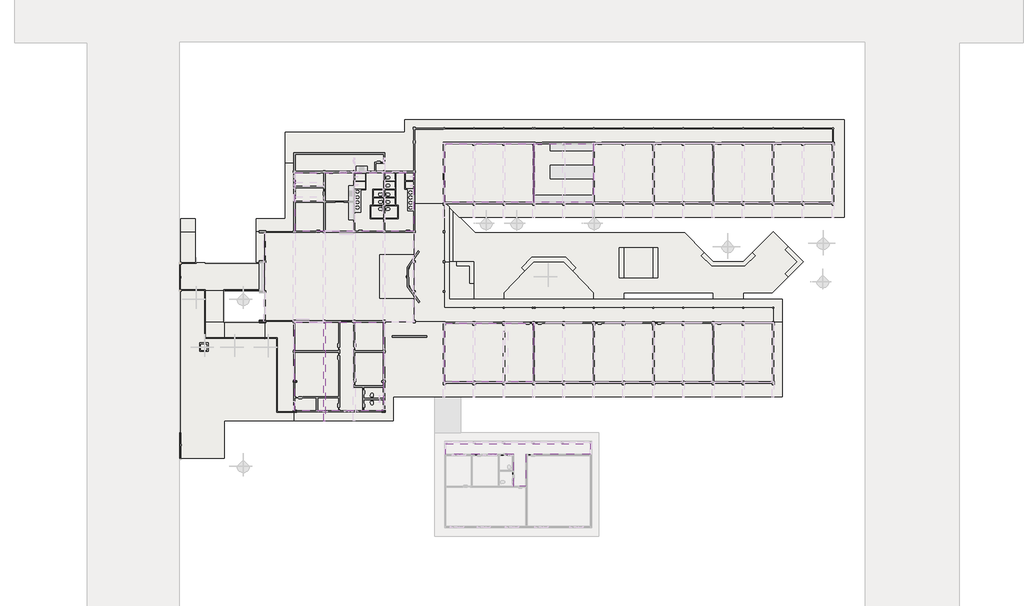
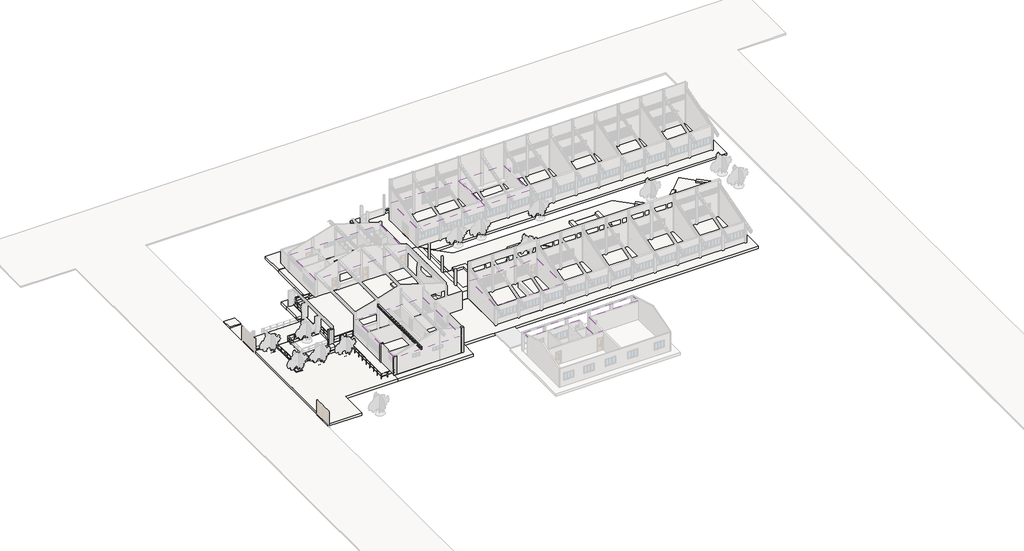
# One storey, part 5 of 12: 56 slabs, 6 coverings, 4 columns, 1 beam.
"""IFC4 building model written with IfcOpenShell, lengths in millimetres."""

from ifc_helpers import new_model, si_unit, point, frame, frame_2d, origin, origin_with_axes, place, context, project, spatial, polyline, circle_curve, trimmed, segment, composite_curve, outline, extrude, faceted_brep, transform, mapped, element, save
from components import beam_20x40_2e5e74c3

model = new_model("IFC4")

# Units and contexts
model_context = context("Model", 3, world=origin())
ifc_project = project(units=[si_unit("LENGTHUNIT", "METRE", prefix="MILLI")], contexts=[model_context])

# Site, building, storey
site = spatial("IfcSite", under=ifc_project)
building = spatial("IfcBuilding", under=site)
storey = spatial("IfcBuildingStorey", under=building, Name="Nível 1", Elevation=0.0)

# Beam
placement = place(None, origin())
beam_20x40_shape = beam_20x40_2e5e74c3(model_context)
element("IfcBeam", 1, ObjectType="Viga Treliçada - Igor Ramos.0001 : 20x40", at=placement, inside=storey, context=model_context, shape_type="MappedRepresentation", body=[
    mapped(beam_20x40_shape, transform((-11198.5268603, 11590.1739256, 4099.0), x_axis=(0.0, 1.0, 0.0), y_axis=(-1.0, 0.0, 0.0), z_axis=(0.0, 0.0, 1.0))),
])

# Columns
element("IfcColumn", 2, ObjectType="Pilar retangular : 40 x 20 cm", at=placement, inside=storey, context=model_context, shape_type="Brep", body=[
    faceted_brep([(-14454.539187, 8927.5037043, 3300.0), (-14643.4946316, 8927.5037043, 3300.0), (-14793.4946316, 8927.5037043, 3300.0), (-14854.539187, 8927.5037043, 3300.0), (-14854.539187, 8727.5037043, 3300.0), (-14793.4946316, 8727.5037043, 3300.0), (-14643.4946316, 8727.5037043, 3300.0), (-14454.539187, 8727.5037043, 3300.0), (-14454.539187, 8927.5037043, 300.0), (-14454.539187, 8727.5037043, 300.0), (-14643.4946316, 8727.5037043, 300.0), (-14793.4946316, 8727.5037043, 300.0), (-14854.539187, 8727.5037043, 300.0), (-14854.539187, 8927.5037043, 300.0), (-14793.4946316, 8927.5037043, 300.0), (-14643.4946316, 8927.5037043, 300.0)], [[[0, 1, 2, 3, 4, 5, 6, 7]], [[8, 9, 10, 11, 12, 13, 14, 15]], [[3, 2, 1, 0, 8, 15, 14, 13]], [[4, 3, 13, 12]], [[7, 6, 5, 4, 12, 11, 10, 9]], [[0, 7, 9, 8]]]),
])
element("IfcColumn", 3, ObjectType="Pilar retangular : 40 x 20 cm", at=placement, inside=storey, context=model_context, shape_type="Brep", body=[
    faceted_brep([(-14440.0642381, 5422.1410552, 3300.0), (-14643.4946316, 5422.1410552, 3300.0), (-14793.4946316, 5422.1410552, 3300.0), (-14840.0642381, 5422.1410552, 3300.0), (-14840.0642381, 5222.1410552, 3300.0), (-14440.0642381, 5222.1410552, 3300.0), (-14440.0642381, 5246.1710904, 3300.0), (-14440.0642381, 5396.1710904, 3300.0), (-14440.0642381, 5422.1410552, 300.0), (-14440.0642381, 5396.1710904, 300.0), (-14440.0642381, 5246.1710904, 300.0), (-14440.0642381, 5222.1410552, 300.0), (-14840.0642381, 5222.1410552, 300.0), (-14840.0642381, 5422.1410552, 300.0), (-14793.4946316, 5422.1410552, 300.0), (-14643.4946316, 5422.1410552, 300.0)], [[[0, 1, 2, 3, 4, 5, 6, 7]], [[8, 9, 10, 11, 12, 13, 14, 15]], [[3, 2, 1, 0, 8, 15, 14, 13]], [[4, 3, 13, 12]], [[5, 4, 12, 11]], [[0, 7, 6, 5, 11, 10, 9, 8]]]),
])
element("IfcColumn", 4, ObjectType="Pilar retangular : 40 x 20 cm", at=placement, inside=storey, context=model_context, shape_type="Brep", body=[
    faceted_brep([(-4082.1826756, 5422.1410552, 4450.0), (-4482.1826756, 5422.1410552, 4450.0), (-4482.1826756, 5222.1410552, 4450.0), (-4082.1826756, 5222.1410552, 4450.0), (-4082.1826756, 5422.1410552, 300.0), (-4082.1826756, 5222.1410552, 300.0), (-4482.1826756, 5222.1410552, 300.0), (-4482.1826756, 5246.1710904, 300.0), (-4482.1826756, 5396.1710904, 300.0), (-4482.1826756, 5422.1410552, 300.0), (-4288.3111843, 5422.1410552, 300.0), (-4138.3111843, 5422.1410552, 300.0)], [[[0, 1, 2, 3]], [[4, 5, 6, 7, 8, 9, 10, 11]], [[1, 0, 4, 11, 10, 9]], [[2, 1, 9, 8, 7, 6]], [[3, 2, 6, 5]], [[0, 3, 5, 4]]]),
])
element("IfcColumn", 5, ObjectType="Pilar retangular : 80 x 25 cm", at=placement, inside=storey, context=model_context, shape_type="Brep", body=[
    faceted_brep([(-18048.5268603, 15956.1797638, 2650.0), (-18848.5268603, 15956.1797638, 2650.0), (-18848.5268603, 15706.1797638, 2650.0), (-18048.5268603, 15706.1797638, 2650.0), (-18848.5268603, 15706.1797638, -100.0), (-18848.5268603, 15956.1797638, -100.0), (-18048.5268603, 15956.1797638, -100.0), (-18048.5268603, 15831.1862478, -100.0), (-18198.5268603, 15831.1862478, -100.0), (-18198.5268603, 15706.1797638, -100.0), (-18048.5268603, 15956.1797638, 300.0), (-18198.4714475, 15956.1797638, 300.0), (-18198.4714475, 15956.1797638, 0.0), (-18048.5268603, 15956.1797638, 0.0), (-18848.5268603, 15706.1797638, 179.2044041), (-18848.5268603, 15831.1862478, 179.2044041), (-18848.5268603, 15831.1862478, 279.2553191), (-18848.5268603, 15706.1797638, 279.2553191), (-18198.5268603, 15706.1797638, 300.0), (-18048.5268603, 15706.1797638, 300.0), (-18198.5268603, 15831.1862478, 300.0), (-18198.5268603, 15831.1862478, 199.9490849), (-18198.5268603, 15706.1797638, 199.9490849), (-18198.5268603, 15831.1862478, 0.0), (-18048.5268603, 15831.1862478, 0.0)], [[[0, 1, 2, 3]], [[4, 5, 6, 7, 8, 9]], [[1, 0, 10, 11, 12, 13, 6, 5]], [[2, 1, 5, 4, 14, 15, 16, 17]], [[3, 2, 17, 18, 19]], [[0, 3, 19, 10]], [[19, 18, 20, 11, 10]], [[21, 22, 9, 8, 23, 12, 11, 20]], [[8, 7, 24, 23]], [[21, 15, 14, 22]], [[16, 20, 18, 17]], [[14, 4, 9, 22]], [[12, 23, 24, 13]], [[7, 6, 13, 24]], [[15, 21, 20, 16]]]),
])

# Coverings
element("IfcCovering", 6, ObjectType="laje salas", at=placement, inside=storey, context=model_context, shape_type="SweptSolid", body=[
    extrude(outline(polyline([(-14643.4946316, 5396.1710904), (-14643.4946316, 15746.0481484), (-4288.3111843, 15746.0481484), (-4288.3111843, 5396.1710904), (-14643.4946316, 5396.1710904)])), frame((0.0, 0.0, 2960.0), z_axis=(0.0, 0.0, 1.0), x_axis=(1.0, 0.0, 0.0)), (0.0, 0.0, 1.0), 15.0),
])
element("IfcCovering", 7, ObjectType="laje salas", at=placement, inside=storey, context=model_context, shape_type="SweptSolid", body=[
    extrude(outline(polyline([(-773.4714475, 33256.1862478), (-773.4714475, 26406.1862478), (-14623.4714475, 26406.1862478), (-14623.4714475, 33256.1862478), (-773.4714475, 33256.1862478)])), frame((0.0, 0.0, 2960.0), z_axis=(0.0, 0.0, 1.0), x_axis=(1.0, 0.0, 0.0)), (0.0, 0.0, 1.0), 15.0),
])
element("IfcCovering", 8, ObjectType="Forro em pvc", at=placement, inside=storey, context=model_context, shape_type="SweptSolid", body=[
    extrude(outline(polyline([(2876.528714, 15622.0058221), (13226.528714, 15622.0058221), (13226.528714, 8781.1862478), (2876.528714, 8781.1862478), (2876.528714, 15622.0058221)])), frame((0.0, 0.0, 3250.0), z_axis=(0.0, 0.0, 1.0), x_axis=(1.0, 0.0, 0.0)), (0.0, 0.0, 1.0), 20.0),
])
element("IfcCovering", 9, ObjectType="Forro em pvc", at=placement, inside=storey, context=model_context, shape_type="SweptSolid", body=[
    extrude(outline(polyline([(13376.5285525, 36626.0629917), (20226.5285525, 36626.0629917), (20226.5285525, 29781.1862478), (13376.5285525, 29781.1862478), (13376.5285525, 36626.0629917)])), frame((0.0, 0.0, 3250.0), z_axis=(0.0, 0.0, 1.0), x_axis=(1.0, 0.0, 0.0)), (0.0, 0.0, 1.0), 20.0),
])
element("IfcCovering", 10, ObjectType="Forro em pvc", at=placement, inside=storey, context=model_context, shape_type="SweptSolid", body=[
    extrude(outline(polyline([(13226.5285525, 36626.0629917), (13226.5285525, 29781.1862478), (2876.5285525, 29781.1862478), (2876.5285525, 36626.0629917), (13226.5285525, 36626.0629917)])), frame((0.0, 0.0, 3250.0), z_axis=(0.0, 0.0, 1.0), x_axis=(1.0, 0.0, 0.0)), (0.0, 0.0, 1.0), 20.0),
])
element("IfcCovering", 11, ObjectType="Forro em pvc", at=placement, inside=storey, context=model_context, shape_type="SweptSolid", body=[
    extrude(outline(polyline([(3026.5285525, 1525.3088684), (19926.5285525, 1525.3088684), (19926.5285525, 301.3249037), (12376.5285525, 301.3249037), (12376.5285525, -3418.8137522), (10926.5285525, -3418.8137522), (10926.5285525, 301.3249037), (3026.5285525, 301.3249037), (3026.5285525, 1525.3088684)])), frame((0.0, 0.0, 3250.0), z_axis=(0.0, 0.0, 1.0), x_axis=(1.0, 0.0, 0.0)), (0.0, 0.0, 1.0), 20.0),
])

# Slabs
element("IfcSlab", 12, ObjectType="Granilite", at=placement, inside=storey, context=model_context, shape_type="Brep", body=[
    faceted_brep([(-14773.4714475, 26331.1862478, 0.0), (-14773.4714475, 26256.1862478, 0.0), (-773.4714655, 26256.1862478, 0.0), (-773.4714655, 15831.1862478, 0.0), (-4138.3111843, 15831.1862478, 0.0), (-4138.3111843, 15896.0481484, 0.0), (-14793.4946316, 15896.0481484, 0.0), (-14793.4946316, 15831.1862478, 0.0), (-18048.5268603, 15831.1862478, 0.0), (-18198.4714475, 15831.1862478, 0.0), (-18198.4714475, 15956.1797638, 0.0), (-18198.4714475, 19206.1797638, 0.0), (-18198.4714475, 19456.1797638, 0.0), (-18198.4714475, 22706.1862478, 0.0), (-18198.4714475, 22956.1862478, 0.0), (-18198.4714475, 26206.1797638, 0.0), (-18198.4714475, 26331.1862478, 0.0), (-18048.5268603, 26331.1862478, 0.0), (-14773.4714475, 26331.1862478, 300.0), (-18048.5268603, 26331.1862478, 300.0), (-18198.4714475, 26331.1862478, 300.0), (-18198.4714475, 26206.1797638, 300.0), (-18198.4714475, 22956.1862478, 300.0), (-18198.4714475, 22706.1862478, 300.0), (-18198.4714475, 19456.1797638, 300.0), (-18198.4714475, 19206.1797638, 300.0), (-18198.4714475, 15956.1797638, 300.0), (-18198.4714475, 15831.1862478, 300.0), (-14793.4946316, 15831.1862478, 300.0), (-14793.4946316, 15896.0481484, 300.0), (-4138.3111843, 15896.0481484, 300.0), (-4138.3111843, 15831.1862478, 300.0), (-773.4714655, 15831.1862478, 300.0), (-773.4714655, 26256.1862478, 300.0), (-823.4714475, 26256.1862478, 300.0), (-873.4714475, 26256.1862478, 300.0), (-1733.4714475, 26256.1862478, 300.0), (-4073.4714475, 26256.1862478, 300.0), (-4323.4714475, 26256.1862478, 300.0), (-6663.4714475, 26256.1862478, 300.0), (-7523.4714475, 26256.1862478, 300.0), (-7573.4714475, 26256.1862478, 300.0), (-7823.5268603, 26256.1862478, 300.0), (-14773.4714475, 26256.1862478, 300.0), (-18198.4714475, 15831.1862478, 199.9490849), (-18198.4714475, 26331.1862478, 200.0)], [[[0, 1, 2, 3, 4, 5, 6, 7, 8, 9, 10, 11, 12, 13, 14, 15, 16, 17]], [[18, 19, 20, 21, 22, 23, 24, 25, 26, 27, 28, 29, 30, 31, 32, 33, 34, 35, 36, 37, 38, 39, 40, 41, 42, 43]], [[1, 0, 18, 43]], [[2, 1, 43, 42, 41, 40, 39, 38, 37, 36, 35, 34, 33]], [[3, 2, 33, 32]], [[4, 3, 32, 31]], [[5, 4, 31, 30]], [[6, 5, 30, 29]], [[7, 6, 29, 28]], [[9, 8, 7, 28, 27, 44]], [[16, 15, 14, 13, 12, 11, 10, 9, 44, 27, 26, 25, 24, 23, 22, 21, 20, 45]], [[0, 17, 16, 45, 20, 19, 18]]]),
])
element("IfcSlab", 13, ObjectType="Piso cerâmico 30 x 30cm - branco", at=placement, inside=storey, context=model_context, shape_type="SweptSolid", body=[
    extrude(outline(polyline([(-773.4714475, 33256.1862478), (-773.4714475, 26406.1862478), (-4123.4714475, 26406.1862478), (-4123.4714475, 33256.1862478), (-773.4714475, 33256.1862478)])), frame((0.0, 0.0, 245.0), z_axis=(0.0, 0.0, 1.0), x_axis=(1.0, 0.0, 0.0)), (0.0, 0.0, 1.0), 55.0),
])
element("IfcSlab", 14, ObjectType="Piso cerâmico 30 x 30cm - branco", at=placement, inside=storey, context=model_context, shape_type="SweptSolid", body=[
    extrude(outline(polyline([(-4273.4714475, 33256.1862478), (-4273.4714475, 26406.1862478), (-7623.4714475, 26406.1862478), (-7623.4714475, 33256.1862478), (-4273.4714475, 33256.1862478)])), frame((0.0, 0.0, 245.0), z_axis=(0.0, 0.0, 1.0), x_axis=(1.0, 0.0, 0.0)), (0.0, 0.0, 1.0), 55.0),
])
element("IfcSlab", 15, ObjectType="Piso cerâmico 30 x 30cm - branco", at=placement, inside=storey, context=model_context, shape_type="SweptSolid", body=[
    extrude(outline(polyline([(-11123.4712416, 33256.1862478), (-7773.4714475, 33256.1862478), (-7773.4714475, 29906.1862478), (-11123.4712416, 29906.1862478), (-11123.4712416, 33256.1862478)])), frame((0.0, 0.0, 245.0), z_axis=(0.0, 0.0, 1.0), x_axis=(1.0, 0.0, 0.0)), (0.0, 0.0, 1.0), 55.0),
])
element("IfcSlab", 16, ObjectType="Piso cerâmico 30 x 30cm - branco", at=placement, inside=storey, context=model_context, shape_type="SweptSolid", body=[
    extrude(outline(polyline([(-7773.4714475, 29756.1862478), (-7773.4714475, 26406.1862478), (-11123.4712416, 26406.1862478), (-11123.4712416, 29756.1862478), (-7773.4714475, 29756.1862478)])), frame((0.0, 0.0, 245.0), z_axis=(0.0, 0.0, 1.0), x_axis=(1.0, 0.0, 0.0)), (0.0, 0.0, 1.0), 55.0),
])
element("IfcSlab", 17, ObjectType="Granilite", at=placement, inside=storey, context=model_context, shape_type="SweptSolid", body=[
    extrude(outline(polyline([(-14623.4714475, 26406.1862478), (-14623.4714475, 29756.1862478), (-11273.4712416, 29756.1862478), (-11273.4712416, 26406.1862478), (-14623.4714475, 26406.1862478)])), origin_with_axes(), (0.0, 0.0, 1.0), 300.0),
])
element("IfcSlab", 18, ObjectType="Granilite", at=placement, inside=storey, context=model_context, shape_type="SweptSolid", body=[
    extrude(outline(polyline([(-11273.4712416, 31481.1862478), (-11273.4712416, 29906.1862478), (-14623.4714475, 29906.1862478), (-14623.4714475, 31481.1862478), (-11273.4712416, 31481.1862478)])), origin_with_axes(), (0.0, 0.0, 1.0), 300.0),
])
element("IfcSlab", 19, ObjectType="Granilite", at=placement, inside=storey, context=model_context, shape_type="SweptSolid", body=[
    extrude(outline(polyline([(-11273.4712416, 33256.1862478), (-11273.4712416, 31631.1862478), (-14623.4714475, 31631.1862478), (-14623.4714475, 33256.1862478), (-11273.4712416, 33256.1862478)])), origin_with_axes(), (0.0, 0.0, 1.0), 300.0),
])
element("IfcSlab", 20, ObjectType="Granilite", at=placement, inside=storey, context=model_context, shape_type="SweptSolid", body=[
    extrude(outline(polyline([(-14793.4946316, 5246.1710904), (-14793.4946316, 15896.0481484), (-4138.3111843, 15896.0481484), (-4138.3111843, 8296.1710904), (-6738.3111843, 8296.1710904), (-6738.3111843, 5246.1710904), (-14793.4946316, 5246.1710904)])), origin_with_axes(), (0.0, 0.0, 1.0), 300.0),
])
element("IfcSlab", 21, ObjectType="Granilite", at=placement, inside=storey, context=model_context, shape_type="SweptSolid", body=[
    extrude(outline(polyline([(-6588.3111843, 8146.1710904), (-4288.3111843, 8146.1710904), (-4288.3111843, 6846.1710904), (-6588.3111843, 6846.1710904), (-6588.3111843, 8146.1710904)])), frame((0.0, 0.0, -10.0), z_axis=(0.0, 0.0, 1.0), x_axis=(1.0, 0.0, 0.0)), (0.0, 0.0, 1.0), 300.0),
])
element("IfcSlab", 22, ObjectType="Granilite", at=placement, inside=storey, context=model_context, shape_type="SweptSolid", body=[
    extrude(outline(polyline([(2726.5285525, 8631.1862478), (2726.5285525, 15772.0058221), (13226.528714, 15772.0058221), (13226.528714, 8631.1862478), (2726.5285525, 8631.1862478)])), origin_with_axes(), (0.0, 0.0, 1.0), 300.0),
])
element("IfcSlab", 23, ObjectType="Granilite", at=placement, inside=storey, context=model_context, shape_type="SweptSolid", body=[
    extrude(outline(polyline([(13226.528714, 8631.1862478), (13226.528714, 15772.0058221), (41376.5302368, 15772.0058221), (41376.5302368, 8631.1862478), (13226.528714, 8631.1862478)])), origin_with_axes(), (0.0, 0.0, 1.0), 300.0),
])
element("IfcSlab", 24, ObjectType="Palco 30cm", at=placement, inside=storey, context=model_context, shape_type="SweptSolid", body=[
    extrude(outline(composite_curve([segment(polyline([(-4698.4714475, 23631.1862478), (-698.4714475, 23631.1862478)]), True, "CONTINUOUS"), segment(trimmed(circle_curve(frame_2d((2149.9431525, 21081.1862478)), 3823.0832758), [point((-698.4714475, 23631.1862478))], [point((-698.4714475, 18531.1862478))], True, "CARTESIAN"), True, "CONTINUOUS"), segment(polyline([(-698.4714475, 18531.1862478), (-4698.4714475, 18531.1862478), (-4698.4714475, 23631.1862478)]), True, "CONTINUOUS")], self_intersect=False)), frame((0.0, 0.0, 300.0), z_axis=(0.0, 0.0, 1.0), x_axis=(1.0, 0.0, 0.0)), (0.0, 0.0, 1.0), 300.0),
])
element("IfcSlab", 25, ObjectType="Piso cerâmico 30 x 30cm - branco", at=placement, inside=storey, context=model_context, shape_type="SweptSolid", body=[
    extrude(outline(polyline([(-9952.6789714, 29906.1862478), (-8948.7737339, 29906.1862478), (-8948.7737339, 29756.1862478), (-9952.6789714, 29756.1862478), (-9952.6789714, 29906.1862478)])), frame((0.0, 0.0, 245.0), z_axis=(0.0, 0.0, 1.0), x_axis=(1.0, 0.0, 0.0)), (0.0, 0.0, 1.0), 55.0),
])
element("IfcSlab", 26, ObjectType="Granilite", at=placement, inside=storey, context=model_context, shape_type="Brep", body=[
    faceted_brep([(2801.5285525, 29631.1862478, 0.0), (2801.5285525, 17442.0058221, 0.0), (41301.5285525, 17442.0058221, 0.0), (41301.5285525, 15772.0058221, 0.0), (2801.4731397, 15772.0058221, 0.0), (2801.4731397, 15831.1862478, 0.0), (-773.4714655, 15831.1862478, 0.0), (-773.4714655, 26256.1862478, 0.0), (-623.4714475, 26256.1862478, 0.0), (-623.4714475, 29631.1862478, 0.0), (2726.5285525, 29631.1862478, 0.0), (2801.5285525, 29631.1862478, 300.0), (2726.5285525, 29631.1862478, 300.0), (-623.4714475, 29631.1862478, 300.0), (-623.4714475, 26256.1862478, 300.0), (-773.4714655, 26256.1862478, 300.0), (-773.4714655, 15831.1862478, 300.0), (2801.4731397, 15831.1862478, 300.0), (2801.4731397, 15772.0058221, 300.0), (41301.5285525, 15772.0058221, 300.0), (41301.5285525, 17442.0058221, 300.0), (2801.5285525, 17442.0058221, 300.0)], [[[0, 1, 2, 3, 4, 5, 6, 7, 8, 9, 10]], [[11, 12, 13, 14, 15, 16, 17, 18, 19, 20, 21]], [[1, 0, 11, 21]], [[9, 8, 14, 13]], [[0, 10, 9, 13, 12, 11]], [[2, 1, 21, 20]], [[3, 2, 20, 19]], [[4, 3, 19, 18]], [[5, 4, 18, 17]], [[6, 5, 17, 16]], [[7, 6, 16, 15]], [[8, 7, 15, 14]]]),
])
element("IfcSlab", 27, ObjectType="Granilite", at=placement, inside=storey, context=model_context, shape_type="SweptSolid", body=[
    extrude(outline(polyline([(-4288.3111843, 6696.1710904), (-4288.3111843, 5396.1710904), (-6588.3111843, 5396.1710904), (-6588.3111843, 6696.1710904), (-4288.3111843, 6696.1710904)])), frame((0.0, 0.0, -10.0), z_axis=(0.0, 0.0, 1.0), x_axis=(1.0, 0.0, 0.0)), (0.0, 0.0, 1.0), 300.0),
])
element("IfcSlab", 28, ObjectType="Granilite", at=placement, inside=storey, context=model_context, shape_type="SweptSolid", body=[
    extrude(outline(polyline([(2726.5285525, 29631.1862478), (-623.4714475, 29631.1862478), (-623.4714475, 36776.1862478), (-623.4714475, 38431.1862478), (48301.5285525, 38431.1862478), (48301.5285525, 36776.0629917), (2726.5285525, 36776.0629917), (2726.5285525, 29631.1862478)])), origin_with_axes(), (0.0, 0.0, 1.0), 300.0),
])
element("IfcSlab", 29, ObjectType="Granilite", at=placement, inside=storey, context=model_context, shape_type="SweptSolid", body=[
    extrude(outline(polyline([(20226.5285525, 36626.0629917), (20226.5285525, 29781.1862478), (2876.5285525, 29781.1862478), (2876.5285525, 36626.0629917), (20226.5285525, 36626.0629917)])), origin_with_axes(), (0.0, 0.0, 1.0), 300.0),
])
element("IfcSlab", 30, ObjectType="2-cm - Banco Concreto canteiro", at=placement, inside=storey, context=model_context, shape_type="SweptSolid", body=[
    extrude(outline(polyline([(-18293.5500443, 13331.1797638), (-17293.5500443, 13331.1797638), (-17293.5500443, 12331.1797638), (-18293.5500443, 12331.1797638), (-18293.5500443, 13331.1797638)]), holes=[polyline([(-18143.5500443, 13181.1797638), (-18143.5500443, 12481.1797638), (-17443.5500443, 12481.1797638), (-17443.5500443, 13181.1797638), (-18143.5500443, 13181.1797638)])]), frame((0.0, 0.0, 100.0), z_axis=(0.0, 0.0, 1.0), x_axis=(1.0, 0.0, 0.0)), (0.0, 0.0, 1.0), 200.0),
])
element("IfcSlab", 31, ObjectType="2-cm - Banco Concreto canteiro", at=placement, inside=storey, context=model_context, shape_type="SweptSolid", body=[
    extrude(outline(polyline([(-22293.5500443, 13331.1797638), (-21293.5500443, 13331.1797638), (-21293.5500443, 12331.1797638), (-22293.5500443, 12331.1797638), (-22293.5500443, 13331.1797638)]), holes=[polyline([(-22143.5500443, 13181.1797638), (-22143.5500443, 12481.1797638), (-21443.5500443, 12481.1797638), (-21443.5500443, 13181.1797638), (-22143.5500443, 13181.1797638)])]), frame((0.0, 0.0, 100.0), z_axis=(0.0, 0.0, 1.0), x_axis=(1.0, 0.0, 0.0)), (0.0, 0.0, 1.0), 200.0),
])
element("IfcSlab", 32, ObjectType="2-cm - Banco Concreto canteiro", at=placement, inside=storey, context=model_context, shape_type="SweptSolid", body=[
    extrude(outline(polyline([(-25793.5500443, 13331.1797638), (-24793.5500443, 13331.1797638), (-24793.5500443, 12331.1797638), (-25793.5500443, 12331.1797638), (-25793.5500443, 13331.1797638)]), holes=[polyline([(-25643.5500443, 13181.1797638), (-25643.5500443, 12481.1797638), (-24943.5500443, 12481.1797638), (-24943.5500443, 13181.1797638), (-25643.5500443, 13181.1797638)])]), frame((0.0, 0.0, 100.0), z_axis=(0.0, 0.0, 1.0), x_axis=(1.0, 0.0, 0.0)), (0.0, 0.0, 1.0), 200.0),
])
element("IfcSlab", 33, ObjectType="2-cm - Banco Concreto canteiro", at=placement, inside=storey, context=model_context, shape_type="SweptSolid", body=[
    extrude(outline(polyline([(-26793.5500443, 18931.1797638), (-25793.5500443, 18931.1797638), (-25793.5500443, 17931.1797638), (-26793.5500443, 17931.1797638), (-26793.5500443, 18931.1797638)]), holes=[polyline([(-26643.5500443, 18781.1797638), (-26643.5500443, 18081.1797638), (-25943.5500443, 18081.1797638), (-25943.5500443, 18781.1797638), (-26643.5500443, 18781.1797638)])]), frame((0.0, 0.0, 100.0), z_axis=(0.0, 0.0, 1.0), x_axis=(1.0, 0.0, 0.0)), (0.0, 0.0, 1.0), 200.0),
])
element("IfcSlab", 34, ObjectType="Granilite", at=placement, inside=storey, context=model_context, shape_type="SweptSolid", body=[
    extrude(outline(polyline([(48226.5285525, 29781.1862478), (20376.5285525, 29781.1862478), (20376.5285525, 36626.0629917), (48226.5285525, 36626.0629917), (48226.5285525, 29781.1862478)])), origin_with_axes(), (0.0, 0.0, 1.0), 300.0),
])
element("IfcSlab", 35, ObjectType="Piso cerâmico 30 x 30cm - branco", at=placement, inside=storey, context=model_context, shape_type="SweptSolid", body=[
    extrude(outline(polyline([(-11273.4712416, 30521.1862478), (-11273.4712416, 31381.1862478), (-11123.4712416, 31381.1862478), (-11123.4712416, 30521.1862478), (-11273.4712416, 30521.1862478)])), frame((0.0, 0.0, 245.0), z_axis=(0.0, 0.0, 1.0), x_axis=(1.0, 0.0, 0.0)), (0.0, 0.0, 1.0), 55.0),
])
element("IfcSlab", 36, ObjectType="Piso cerâmico 30 x 30cm - branco", at=placement, inside=storey, context=model_context, shape_type="SweptSolid", body=[
    extrude(outline(polyline([(-12213.4712416, 26256.1862478), (-12213.4712416, 26406.1862478), (-11373.4712416, 26406.1862478), (-11373.4712416, 26256.1862478), (-12213.4712416, 26256.1862478)])), frame((0.0, 0.0, 245.0), z_axis=(0.0, 0.0, 1.0), x_axis=(1.0, 0.0, 0.0)), (0.0, 0.0, 1.0), 55.0),
])
element("IfcSlab", 37, ObjectType="Granilite", at=placement, inside=storey, context=model_context, shape_type="SweptSolid", body=[
    extrude(outline(polyline([(-6588.3111843, 8106.1710904), (-6588.3111843, 7246.1710904), (-6738.3111843, 7246.1710904), (-6738.3111843, 8106.1710904), (-6588.3111843, 8106.1710904)])), origin_with_axes(), (0.0, 0.0, 1.0), 300.0),
])
element("IfcSlab", 38, ObjectType="Granilite", at=placement, inside=storey, context=model_context, shape_type="SweptSolid", body=[
    extrude(outline(polyline([(-6738.3111843, 5436.1710904), (-6738.3111843, 6296.1710904), (-6588.3111843, 6296.1710904), (-6588.3111843, 5436.1710904), (-6738.3111843, 5436.1710904)])), origin_with_axes(), (0.0, 0.0, 1.0), 300.0),
])
element("IfcSlab", 39, ObjectType="Granilite", at=placement, inside=storey, context=model_context, shape_type="SweptSolid", body=[
    extrude(outline(polyline([(6346.5398414, 151.3249037), (6346.5398414, 301.3249037), (7206.5398414, 301.3249037), (7206.5398414, 151.3249037), (6346.5398414, 151.3249037)])), origin_with_axes(), (0.0, 0.0, 1.0), 300.0),
])
element("IfcSlab", 40, ObjectType="Granilite", at=placement, inside=storey, context=model_context, shape_type="SweptSolid", body=[
    extrude(outline(polyline([(9396.5285525, 151.3249037), (9396.5285525, 301.3249037), (10256.5285525, 301.3249037), (10256.5285525, 151.3249037), (9396.5285525, 151.3249037)])), origin_with_axes(), (0.0, 0.0, 1.0), 300.0),
    extrude(outline(polyline([(10776.5285525, -2623.7444242), (10776.5285525, -1763.7444242), (10926.5285525, -1763.7444242), (10926.5285525, -2623.7444242), (10776.5285525, -2623.7444242)])), origin_with_axes(), (0.0, 0.0, 1.0), 300.0),
    extrude(outline(polyline([(12626.5285525, 151.3249037), (12626.5285525, 301.3249037), (13486.5285525, 301.3249037), (13486.5285525, 151.3249037), (12626.5285525, 151.3249037)])), origin_with_axes(), (0.0, 0.0, 1.0), 300.0),
])
element("IfcSlab", 41, ObjectType="Granilite", at=placement, inside=storey, context=model_context, shape_type="SweptSolid", body=[
    extrude(outline(polyline([(2876.5285525, 33231.1862478), (2876.5285525, 31731.1862478), (2726.5285525, 31731.1862478), (2726.5285525, 33231.1862478), (2876.5285525, 33231.1862478)])), origin_with_axes(), (0.0, 0.0, 1.0), 300.0),
])
element("IfcSlab", 42, ObjectType="Granilite", at=placement, inside=storey, context=model_context, shape_type="SweptSolid", body=[
    extrude(outline(polyline([(21306.5285525, 36626.0629917), (20446.5285525, 36626.0629917), (20446.5285525, 36776.0629917), (21306.5285525, 36776.0629917), (21306.5285525, 36626.0629917)])), origin_with_axes(), (0.0, 0.0, 1.0), 300.0),
    extrude(outline(polyline([(28306.5289673, 36626.0629917), (27446.5289673, 36626.0629917), (27446.5289673, 36776.0629917), (28306.5289673, 36776.0629917), (28306.5289673, 36626.0629917)])), origin_with_axes(), (0.0, 0.0, 1.0), 300.0),
    extrude(outline(polyline([(34455.0570335, 36626.0629917), (34455.0570335, 36776.0629917), (35315.0570335, 36776.0629917), (35315.0570335, 36626.0629917), (34455.0570335, 36626.0629917)])), origin_with_axes(), (0.0, 0.0, 1.0), 300.0),
    extrude(outline(polyline([(41455.0570335, 36626.0629917), (41455.0570335, 36776.0629917), (42315.0570335, 36776.0629917), (42315.0570335, 36626.0629917), (41455.0570335, 36626.0629917)])), origin_with_axes(), (0.0, 0.0, 1.0), 300.0),
])
element("IfcSlab", 43, ObjectType="10cm - Piso de Concreto", at=placement, inside=storey, context=model_context, shape_type="Brep", body=[
    faceted_brep([(-14623.4714475, 33406.1862478, 200.0), (-14623.4714475, 35406.1862478, 200.0), (-4273.4714475, 35406.1862478, 200.0), (-4273.4714475, 34481.185787, 200.0), (-5323.4714475, 34481.185787, 200.0), (-5323.4714475, 33406.1862478, 200.0), (-14623.4714475, 33406.1862478, 300.0), (-12203.4712416, 33406.1862478, 300.0), (-11343.4712416, 33406.1862478, 300.0), (-10983.4712416, 33406.1862478, 300.0), (-10123.4712416, 33406.1862478, 300.0), (-5323.4714475, 33406.1862478, 300.0), (-5323.4714475, 34481.185787, 300.0), (-4273.4714475, 34481.185787, 300.0), (-4273.4714475, 35406.1862478, 300.0), (-14623.4714475, 35406.1862478, 300.0)], [[[0, 1, 2, 3, 4, 5]], [[6, 7, 8, 9, 10, 11, 12, 13, 14, 15]], [[1, 0, 6, 15]], [[2, 1, 15, 14]], [[3, 2, 14, 13]], [[4, 3, 13, 12]], [[5, 4, 12, 11]], [[0, 5, 11, 10, 9, 8, 7, 6]]]),
])
element("IfcSlab", 44, ObjectType="10cm - Piso de Concreto", at=placement, inside=storey, context=model_context, shape_type="SweptSolid", body=[
    extrude(outline(polyline([(6440.7089781, 26192.0058221), (30940.7089781, 26192.0058221), (33240.8683807, 23891.8464196), (32887.3149901, 23538.293029), (34094.4217713, 22331.1862478), (38008.6353337, 22331.1862478), (39215.7421148, 23538.293029), (38862.1887243, 23891.8464196), (41301.5285525, 26331.1862478), (43046.0344711, 24586.6803292), (42692.4810805, 24233.1269386), (44106.6946429, 22818.9133762), (42692.4810805, 21404.6998138), (43046.0344711, 21051.1464232), (41186.89387, 19192.0058221), (37801.5285525, 19192.0058221), (37801.5285525, 18442.0062735), (34301.5285525, 18442.0062735), (34301.5285525, 19192.0058221), (23801.5285525, 19192.0058221), (23801.5285525, 18442.0062735), (20301.5285525, 18442.0062735), (20301.5285525, 19192.0058221), (17841.3132668, 21750.0536251), (18201.6908077, 22096.6485299), (17014.3679748, 23331.1862478), (13088.6891302, 23331.1862478), (11901.3662972, 22096.6485299), (12261.7438381, 21750.0536251), (9801.5285525, 19192.0058221), (9801.5285525, 18442.0062735), (6301.5285525, 18442.0062735), (6301.5285525, 22831.1862478), (3801.5285525, 22831.1862478), (3801.5285525, 28831.1862478), (6440.7089781, 26192.0058221)]), holes=[polyline([(23301.5285525, 20942.0058221), (27801.5285525, 20942.0058221), (27801.5285525, 24442.0058221), (23301.5285525, 24442.0058221), (23301.5285525, 20942.0058221)])]), origin_with_axes(), (0.0, 0.0, 1.0), 100.0),
])
element("IfcSlab", 45, ObjectType="10cm - Piso de Concreto", at=placement, inside=storey, context=model_context, shape_type="Brep", body=[
    faceted_brep([(-22898.5268603, 13831.1797638, 49.9490849), (-22898.5268603, 15831.1862478, 49.9490849), (-18848.5268603, 15831.1862478, 179.2044041), (-18198.5268603, 15831.1862478, 199.9490849), (-18198.5268603, 15706.1797638, 199.9490849), (-18198.5268603, 13831.1797638, 199.9490849), (-22898.5268603, 13831.1797638, 150.0), (-18198.5268603, 13831.1797638, 300.0), (-18198.5268603, 15831.1862478, 300.0), (-18848.5268603, 15831.1862478, 279.2553191), (-22898.5268603, 15831.1862478, 150.0)], [[[0, 1, 2, 3, 4, 5]], [[6, 7, 8, 9, 10]], [[1, 0, 6, 10]], [[3, 2, 1, 10, 9, 8]], [[5, 4, 3, 8, 7]], [[0, 5, 7, 6]]]),
])
element("IfcSlab", 46, ObjectType="10cm - Piso de Concreto", at=placement, inside=storey, context=model_context, shape_type="SweptSolid", body=[
    extrude(outline(polyline([(-25198.5268603, 15831.1862478), (-22898.5268603, 15831.1862478), (-22898.5268603, 13831.1797638), (-25198.5268603, 13831.1797638), (-25198.5268603, 15831.1862478)])), frame((0.0, 0.0, 50.0), z_axis=(0.0, 0.0, 1.0), x_axis=(1.0, 0.0, 0.0)), (0.0, 0.0, 1.0), 100.0),
])
element("IfcSlab", 47, ObjectType="10cm - Piso de Concreto", at=placement, inside=storey, context=model_context, shape_type="SweptSolid", body=[
    extrude(outline(polyline([(19456.1862478, -100.8547328), (15831.1862478, 49.9135458), (15831.1862478, 150.0), (19456.1862478, -0.7682786), (19456.1862478, -100.8547328)])), frame((-25198.5268603, 0.0, 0.0), z_axis=(1.0, 0.0, 0.0), x_axis=(0.0, 1.0, 0.0)), (0.0, 0.0, 1.0), 2300.0),
])
element("IfcSlab", 48, ObjectType="10cm - Piso de Concreto", at=placement, inside=storey, context=model_context, shape_type="SweptSolid", body=[
    extrude(outline(polyline([(-5167.9962656, 34331.185787), (-5167.9962656, 34481.185787), (-4307.9962656, 34481.185787), (-4307.9962656, 34331.185787), (-5167.9962656, 34331.185787)])), frame((0.0, 0.0, 200.0), z_axis=(0.0, 0.0, 1.0), x_axis=(1.0, 0.0, 0.0)), (0.0, 0.0, 1.0), 100.0),
])
element("IfcSlab", 49, ObjectType="40cm - Piso de Concreto", at=placement, inside=storey, context=model_context, shape_type="SweptSolid", body=[
    extrude(outline(polyline([(-28148.5268603, 22706.1862478), (-18198.4714475, 22706.1862478), (-18198.4714475, 19456.1862478), (-28148.5268603, 19456.1862478), (-28148.5268603, 22706.1862478)])), frame((0.0, 0.0, -400.0), z_axis=(0.0, 0.0, 1.0), x_axis=(1.0, 0.0, 0.0)), (0.0, 0.0, 1.0), 400.0),
])
element("IfcSlab", 50, ObjectType="40cm - Piso de Concreto", at=placement, inside=storey, context=model_context, shape_type="Brep", body=[
    faceted_brep([(49646.9556519, 28031.1860769, -200.0), (4601.4668266, 28031.1860769, -200.0), (3001.4666557, 29631.1862478, -200.0), (48376.5285525, 29631.1862478, -200.0), (48376.5285525, 36781.1862478, -200.0), (48331.5285525, 36781.1862478, -200.0), (48331.5285525, 38461.1862478, -200.0), (-773.4714475, 38461.1862478, -200.0), (-773.4714475, 33406.1862478, -200.0), (-5173.4714475, 33406.1862478, -200.0), (-5173.4714475, 34331.185787, -200.0), (-4123.4714475, 34331.185787, -200.0), (-4123.4714475, 35556.1862478, -200.0), (-14773.4714475, 35556.1862478, -200.0), (-14773.4714475, 34406.15277, -200.0), (-15773.5268603, 34406.15277, -200.0), (-15773.5268603, 37956.1797638, -200.0), (-1814.1494193, 37956.1797638, -200.0), (-1814.1494193, 39431.1855825, -200.0), (49646.9556519, 39431.1855825, -200.0), (49646.9556519, 28031.1860769, 200.0), (49646.9556519, 39431.1855825, 200.0), (-1814.1494193, 39431.1855825, 200.0), (-1814.1494193, 37956.1797638, 200.0), (-15773.5268603, 37956.1797638, 200.0), (-15773.5268603, 34406.15277, 200.0), (-14773.4714475, 34406.15277, 200.0), (-14773.4714475, 35556.1862478, 200.0), (-4123.4714475, 35556.1862478, 200.0), (-4123.4714475, 34331.185787, 200.0), (-5173.4714475, 34331.185787, 200.0), (-5173.4714475, 33406.1862478, 200.0), (-773.4714475, 33406.1862478, 200.0), (-773.4714475, 38461.1862478, 200.0), (48331.5285525, 38461.1862478, 200.0), (48331.5285525, 36781.1862478, 200.0), (48376.5285525, 36781.1862478, 200.0), (48376.5285525, 29631.1862478, 200.0), (3001.4666557, 29631.1862478, 200.0), (4601.4668266, 28031.1860769, 200.0), (48376.5285525, 29631.1862478, 106.1949031), (-4123.4714475, 34331.185787, 100.0), (-4123.4714475, 35556.1862478, 0.0), (-14773.4714475, 35556.1862478, 0.0)], [[[0, 1, 2, 3, 4, 5, 6, 7, 8, 9, 10, 11, 12, 13, 14, 15, 16, 17, 18, 19]], [[20, 21, 22, 23, 24, 25, 26, 27, 28, 29, 30, 31, 32, 33, 34, 35, 36, 37, 38, 39]], [[3, 2, 38, 37, 40]], [[4, 3, 40, 37, 36]], [[5, 4, 36, 35]], [[18, 17, 23, 22]], [[19, 18, 22, 21]], [[0, 19, 21, 20]], [[1, 0, 20, 39]], [[12, 11, 41, 29, 28, 42]], [[13, 12, 42, 28, 27, 43]], [[14, 13, 43, 27, 26]], [[16, 15, 25, 24]], [[17, 16, 24, 23]], [[6, 5, 35, 34]], [[7, 6, 34, 33]], [[8, 7, 33, 32]], [[2, 1, 39, 38]], [[15, 14, 26, 25]], [[9, 8, 32, 31]], [[10, 9, 31, 30]], [[11, 10, 30, 29, 41]]]),
    faceted_brep([(2801.5285525, 17442.0058221, -200.0), (2801.5285525, 22831.1862478, -200.0), (3401.528421, 22831.1862478, -200.0), (3401.528421, 18442.0062735, -200.0), (42376.5296631, 18442.0062735, -200.0), (42376.5296631, 15772.0058221, -200.0), (41301.5285525, 15772.0058221, -200.0), (41301.5285525, 17442.0058221, -200.0), (2801.5285525, 17442.0058221, 200.0), (41301.5285525, 17442.0058221, 200.0), (41301.5285525, 15772.0058221, 200.0), (42376.5296631, 15772.0058221, 200.0), (42376.5296631, 18442.0062735, 200.0), (3401.528421, 18442.0062735, 200.0), (3401.528421, 22831.1862478, 200.0), (2801.5285525, 22831.1862478, 200.0)], [[[0, 1, 2, 3, 4, 5, 6, 7]], [[8, 9, 10, 11, 12, 13, 14, 15]], [[3, 2, 14, 13]], [[4, 3, 13, 12]], [[5, 4, 12, 11]], [[6, 5, 11, 10]], [[7, 6, 10, 9]], [[0, 7, 9, 8]], [[1, 0, 8, 15]], [[2, 1, 15, 14]]]),
])
element("IfcSlab", 51, ObjectType="40cm - Piso de Concreto", at=placement, inside=storey, context=model_context, shape_type="SweptSolid", body=[
    extrude(outline(polyline([(3401.528421, 29231.1244825), (3401.528421, 22831.1862478), (2801.5285525, 22831.1862478), (2801.5285525, 29631.1862478), (3001.4666557, 29631.1862478), (3401.528421, 29231.1244825)])), frame((0.0, 0.0, -200.0), z_axis=(0.0, 0.0, 1.0), x_axis=(1.0, 0.0, 0.0)), (0.0, 0.0, 1.0), 400.0),
])
element("IfcSlab", 52, ObjectType="40cm - Piso de Concreto", at=placement, inside=storey, context=model_context, shape_type="SweptSolid", body=[
    extrude(outline(polyline([(3801.5285525, 28831.124351), (3801.5285525, 22831.1862478), (3401.528421, 22831.1862478), (3401.528421, 29231.1244825), (3801.5285525, 28831.124351)])), frame((0.0, 0.0, -300.0), z_axis=(0.0, 0.0, 1.0), x_axis=(1.0, 0.0, 0.0)), (0.0, 0.0, 1.0), 400.0),
])
element("IfcSlab", 53, ObjectType="40cm - Piso de Concreto", at=placement, inside=storey, context=model_context, shape_type="Brep", body=[
    faceted_brep([(-14773.4714475, 34406.15277, -300.0), (-14773.4714475, 26331.1862478, -300.0), (-19198.5537231, 26331.1862478, -300.0), (-19198.5537231, 27830.9262075, -300.0), (-15773.7209106, 27830.9262075, -300.0), (-15773.7209106, 34406.15277, -300.0), (-14773.4714475, 34406.15277, 100.0), (-15773.7209106, 34406.15277, 100.0), (-15773.7209106, 27830.9262075, 100.0), (-19198.5537231, 27830.9262075, 100.0), (-19198.5537231, 26331.1862478, 100.0), (-18848.5268603, 26331.1862478, 100.0), (-18048.5268603, 26331.1862478, 100.0), (-14773.4714475, 26331.1862478, 100.0)], [[[0, 1, 2, 3, 4, 5]], [[6, 7, 8, 9, 10, 11, 12, 13]], [[1, 0, 6, 13]], [[2, 1, 13, 12, 11, 10]], [[3, 2, 10, 9]], [[4, 3, 9, 8]], [[5, 4, 8, 7]], [[0, 5, 7, 6]]]),
])
element("IfcSlab", 54, ObjectType="40cm - Piso de Concreto", at=placement, inside=storey, context=model_context, shape_type="Brep", body=[
    faceted_brep([(-19198.5268603, 26331.1862478, -200.0), (-18198.4714475, 26331.1862478, -200.0), (-18198.4714475, 22706.1862478, -200.0), (-19198.5268603, 22706.1862478, -200.0), (-19198.5268603, 26331.1862478, 200.0), (-19198.5268603, 22706.1862478, 200.0), (-18848.5268603, 22706.1862478, 200.0), (-18198.4714475, 22706.1862478, 200.0), (-18198.4714475, 22956.1862478, 200.0), (-18198.4714475, 26206.1797638, 200.0), (-18198.4714475, 26331.1862478, 200.0), (-18848.5268603, 26331.1862478, 200.0), (-18198.4714475, 26331.1862478, 0.0), (-18198.4714475, 26331.1862478, -100.0), (-18198.4714475, 22706.1862478, 0.0), (-18198.4714475, 22706.1862478, -100.0)], [[[0, 1, 2, 3]], [[4, 5, 6, 7, 8, 9, 10, 11]], [[1, 0, 4, 11, 10, 12, 13]], [[2, 1, 13, 12, 10, 9, 8, 7, 14, 15]], [[3, 2, 15, 14, 7, 6, 5]], [[0, 3, 5, 4]]]),
])
element("IfcSlab", 55, ObjectType="40cm - Piso de Concreto", at=placement, inside=storey, context=model_context, shape_type="SweptSolid", body=[
    extrude(outline(polyline([(42376.4040894, 15772.0058221), (42376.4040894, 7031.30277), (-3138.2130981, 7031.30277), (-3138.2130981, 4246.430895), (-14793.4946316, 4246.430895), (-14793.4946316, 5222.1410552), (-4138.3111843, 5222.1410552), (-4138.3111843, 15831.1862478), (2726.5285525, 15831.1862478), (2726.5285525, 8631.1862478), (41376.5302368, 8631.1862478), (41376.5302368, 15772.0058221), (42376.4040894, 15772.0058221)])), frame((0.0, 0.0, -100.0), z_axis=(0.0, 0.0, 1.0), x_axis=(1.0, 0.0, 0.0)), (0.0, 0.0, 1.0), 400.0),
])
element("IfcSlab", 56, ObjectType="40cm - Piso de Concreto", at=placement, inside=storey, context=model_context, shape_type="Brep", body=[
    faceted_brep([(-22898.5268603, 4235.856231, -100.0), (-22898.5268603, -168.8137522, -100.0), (-27998.5268603, -168.8137522, -100.0), (-27998.5268603, 19456.1862478, -100.0), (-25198.5268603, 19456.1862478, -100.0), (-25198.5268603, 13831.1797638, -100.0), (-18198.5268603, 13831.1797638, -100.0), (-18198.5268603, 15706.1797638, -100.0), (-18198.5268603, 15831.1862478, -100.0), (-18048.5268603, 15831.1862478, -100.0), (-14793.4946316, 15831.1862478, -100.0), (-14793.4946316, 4235.856231, -100.0), (-22898.5268603, 4235.856231, 300.0), (-14793.4946316, 4235.856231, 300.0), (-14793.4946316, 15831.1862478, 300.0), (-18198.5268603, 15831.1862478, 300.0), (-18198.5268603, 13831.1797638, 300.0), (-25198.5268603, 13831.1797638, 300.0), (-25198.5268603, 19456.1862478, 300.0), (-27998.5268603, 19456.1862478, 300.0), (-27998.5268603, -168.8137522, 300.0), (-22898.5268603, -168.8137522, 300.0), (-18198.5268603, 15831.1862478, 0.0)], [[[0, 1, 2, 3, 4, 5, 6, 7, 8, 9, 10, 11]], [[12, 13, 14, 15, 16, 17, 18, 19, 20, 21]], [[8, 7, 6, 16, 15, 22]], [[10, 9, 8, 22, 15, 14]], [[11, 10, 14, 13]], [[0, 11, 13, 12]], [[3, 2, 20, 19]], [[4, 3, 19, 18]], [[5, 4, 18, 17]], [[6, 5, 17, 16]], [[1, 0, 12, 21]], [[2, 1, 21, 20]]]),
])
element("IfcSlab", 57, ObjectType="40cm - Piso de Concreto", at=placement, inside=storey, context=model_context, shape_type="SweptSolid", body=[
    extrude(outline(polyline([(-27998.5268603, 22706.1862478), (-27998.5268603, 26331.1797638), (-26298.5268603, 26331.1797638), (-26298.5268603, 22706.1862478), (-27998.5268603, 22706.1862478)])), frame((0.0, 0.0, -600.0), z_axis=(0.0, 0.0, 1.0), x_axis=(1.0, 0.0, 0.0)), (0.0, 0.0, 1.0), 400.0),
])
element("IfcSlab", 58, ObjectType="40cm - Piso de Concreto", at=placement, inside=storey, context=model_context, shape_type="SweptSolid", body=[
    extrude(outline(polyline([(-27998.5268603, 27831.1797638), (-26298.5268603, 27831.1797638), (-26298.5268603, 26331.1797638), (-27998.5268603, 26331.1797638), (-27998.5268603, 27831.1797638)])), frame((0.0, 0.0, -400.0), z_axis=(0.0, 0.0, 1.0), x_axis=(1.0, 0.0, 0.0)), (0.0, 0.0, 1.0), 400.0),
])
element("IfcSlab", 59, ObjectType="45cm - Banco Concreto", at=placement, inside=storey, context=model_context, shape_type="SweptSolid", body=[
    extrude(outline(polyline([(4301.5285525, 22831.1862478), (6301.5285525, 22831.1862478), (6301.5285525, 20331.1862478), (5801.5285525, 20331.1862478), (5801.5285525, 22331.1862478), (4301.5285525, 22331.1862478), (4301.5285525, 22831.1862478)])), frame((0.0, 0.0, 50.0), z_axis=(0.0, 0.0, 1.0), x_axis=(1.0, 0.0, 0.0)), (0.0, 0.0, 1.0), 450.0),
])
element("IfcSlab", 60, ObjectType="45cm - Banco Concreto", at=placement, inside=storey, context=model_context, shape_type="SweptSolid", body=[
    extrude(outline(polyline([(13088.6891302, 23331.1862478), (17014.3679748, 23331.1862478), (18201.6908077, 22096.6485299), (17841.3132668, 21750.0536251), (16801.5285525, 22831.1862478), (13301.5285525, 22831.1862478), (12261.7438381, 21750.0536251), (11901.3662972, 22096.6485299), (13088.6891302, 23331.1862478)])), frame((0.0, 0.0, 50.0), z_axis=(0.0, 0.0, 1.0), x_axis=(1.0, 0.0, 0.0)), (0.0, 0.0, 1.0), 450.0),
])
element("IfcSlab", 61, ObjectType="45cm - Banco Concreto", at=placement, inside=storey, context=model_context, shape_type="SweptSolid", body=[
    extrude(outline(polyline([(23301.5285525, 20942.0058221), (23301.5285525, 24442.0058221), (23801.5285525, 24442.0058221), (23801.5285525, 20942.0058221), (23301.5285525, 20942.0058221)])), frame((0.0, 0.0, 50.0), z_axis=(0.0, 0.0, 1.0), x_axis=(1.0, 0.0, 0.0)), (0.0, 0.0, 1.0), 450.0),
    extrude(outline(polyline([(27801.5285525, 20942.0058221), (27301.5285525, 20942.0058221), (27301.5285525, 24442.0058221), (27801.5285525, 24442.0058221), (27801.5285525, 20942.0058221)])), frame((0.0, 0.0, 50.0), z_axis=(0.0, 0.0, 1.0), x_axis=(1.0, 0.0, 0.0)), (0.0, 0.0, 1.0), 450.0),
])
element("IfcSlab", 62, ObjectType="45cm - Banco Concreto", at=placement, inside=storey, context=model_context, shape_type="SweptSolid", body=[
    extrude(outline(polyline([(34301.5285525, 22831.1862478), (37801.5285525, 22831.1862478), (38862.1887243, 23891.8464196), (39215.7421148, 23538.293029), (38008.6353337, 22331.1862478), (34094.4217713, 22331.1862478), (32887.3149901, 23538.293029), (33240.8683807, 23891.8464196), (34301.5285525, 22831.1862478)])), frame((0.0, 0.0, 50.0), z_axis=(0.0, 0.0, 1.0), x_axis=(1.0, 0.0, 0.0)), (0.0, 0.0, 1.0), 450.0),
])
element("IfcSlab", 63, ObjectType="45cm - Banco Concreto", at=placement, inside=storey, context=model_context, shape_type="SweptSolid", body=[
    extrude(outline(polyline([(44813.8014241, 22818.9133762), (43046.0344711, 21051.1464232), (42692.4810805, 21404.6998138), (44106.6946429, 22818.9133762), (42692.4810805, 24233.1269386), (43046.0344711, 24586.6803292), (44813.8014241, 22818.9133762)])), frame((0.0, 0.0, -100.0), z_axis=(0.0, 0.0, 1.0), x_axis=(1.0, 0.0, 0.0)), (0.0, 0.0, 1.0), 450.0),
])
element("IfcSlab", 64, ObjectType="Grama", at=placement, inside=storey, context=model_context, shape_type="SweptSolid", body=[
    extrude(outline(polyline([(4301.5285525, 22831.1862478), (4301.5285525, 22331.1862478), (5801.5285525, 22331.1862478), (5801.5285525, 20331.1862478), (6301.5285525, 20331.1862478), (6301.5285525, 18442.0062735), (3401.528421, 18442.0062735), (3401.528421, 22831.1862478), (4301.5285525, 22831.1862478)])), frame((0.0, 0.0, 50.0), z_axis=(0.0, 0.0, 1.0), x_axis=(1.0, 0.0, 0.0)), (0.0, 0.0, 1.0), 50.0),
])
element("IfcSlab", 65, ObjectType="Grama", at=placement, inside=storey, context=model_context, shape_type="SweptSolid", body=[
    extrude(outline(polyline([(13301.5285525, 22831.1862478), (16801.5285525, 22831.1862478), (20301.5285525, 19192.0058221), (20301.5285525, 18442.0062735), (9801.5285525, 18442.0062735), (9801.5285525, 19192.0058221), (13301.5285525, 22831.1862478)])), frame((0.0, 0.0, -50.0), z_axis=(0.0, 0.0, 1.0), x_axis=(1.0, 0.0, 0.0)), (0.0, 0.0, 1.0), 50.0),
])
element("IfcSlab", 66, ObjectType="Grama", at=placement, inside=storey, context=model_context, shape_type="SweptSolid", body=[
    extrude(outline(polyline([(23801.5285525, 24442.0058221), (27301.5285525, 24442.0058221), (27301.5285525, 20942.0058221), (23801.5285525, 20942.0058221), (23801.5285525, 24442.0058221)])), frame((0.0, 0.0, 50.0), z_axis=(0.0, 0.0, 1.0), x_axis=(1.0, 0.0, 0.0)), (0.0, 0.0, 1.0), 50.0),
])
element("IfcSlab", 67, ObjectType="Rua", at=placement, inside=storey, context=model_context, shape_type="SweptSolid", body=[
    extrude(outline(polyline([(-27998.5268603, 2839.9788515), (-27998.5268603, -160.0211485), (-28148.5268603, -160.0211485), (-28148.5268603, 2839.9788515), (-27998.5268603, 2839.9788515)])), frame((0.0, 0.0, -200.0), z_axis=(0.0, 0.0, 1.0), x_axis=(1.0, 0.0, 0.0)), (0.0, 0.0, 1.0), 200.0),
])

save(model, "model.ifc")
